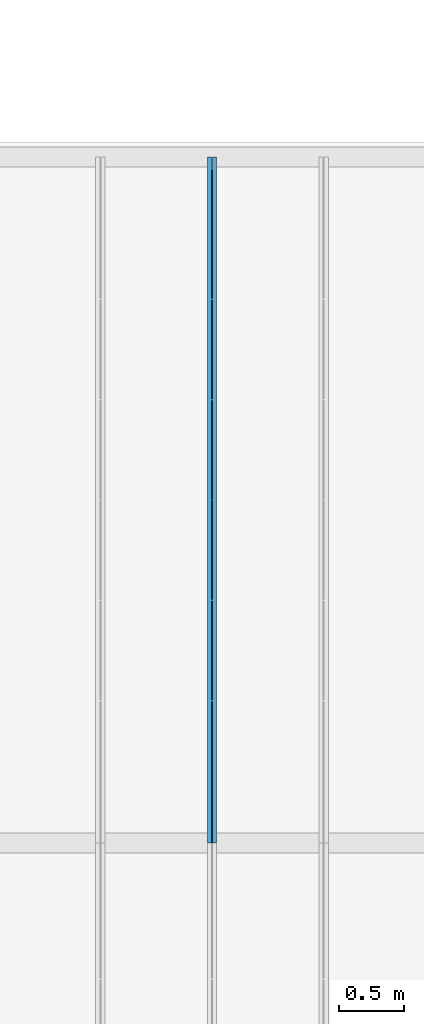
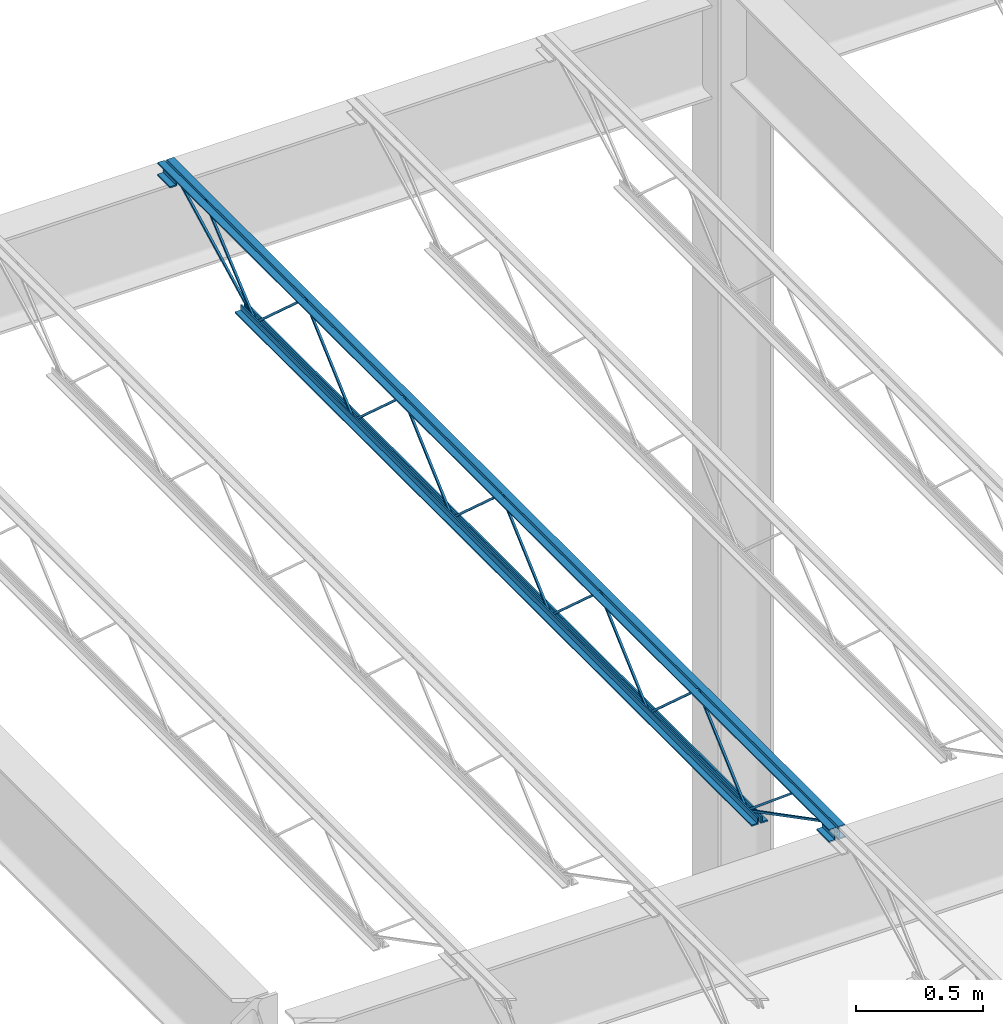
# One storey, part 103 of 119: 1 beam.
"""IFC2X3 building model written with IfcOpenShell, lengths in metres."""

from ifc_helpers import new_model, entity, si_unit, converted_unit, frame, origin, place, context, project, spatial, face_set, surface_model, element, save


model = new_model("IFC2X3")

# Units and contexts
model_context = context("Model", 3, precision=1e-09, world=origin())
plan_context = context("Plan", 3, precision=1e-09, world=origin())
ifc_project = project(units=[si_unit("LENGTHUNIT", "METRE"), si_unit("AREAUNIT", "SQUARE_METRE"), si_unit("VOLUMEUNIT", "CUBIC_METRE"), converted_unit("PLANEANGLEUNIT", "DEGREE", entity("IfcRatioMeasure", 0.01745329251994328), si_unit("PLANEANGLEUNIT", "RADIAN"), dimensions=[0, 0, 0, 0, 0, 0, 0]), si_unit("TIMEUNIT", "SECOND")], contexts=[model_context, plan_context])

# Site, building, storey
site_placement = place(None, origin())
site = spatial("IfcSite", under=ifc_project, at=site_placement, Name="Default", CompositionType="ELEMENT")
building_placement = place(site_placement, origin())
building = spatial("IfcBuilding", under=site, at=building_placement, CompositionType="ELEMENT")
storey_placement = place(building_placement, frame((0.0, 0.0, 4.570000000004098)))
storey = spatial("IfcBuildingStorey", under=building, at=storey_placement, Name="Second Floor", CompositionType="ELEMENT", Elevation=4.570000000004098)

# Beam
beam_placement = place(storey_placement, frame((-17.50673749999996, 44.78049999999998, 4.323999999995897)))
element("IfcBeam", 1, at=beam_placement, inside=storey, Name="M_K-Series Bar Joist-Rod Web:14K1:14K1", ObjectType="M_K-Series Bar Joist-Rod Web:14K1", context=model_context, shape_type="SurfaceModel", body=[
    surface_model("IfcFaceBasedSurfaceModel", [(0.04150000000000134, 3.042999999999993, 0.01110000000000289), (0.0320000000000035, 3.042999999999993, 0.01110000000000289), (0.0320000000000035, 3.042999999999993, 0.001600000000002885), (0.04150000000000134, 3.042999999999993, 0.001600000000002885), (0.03200000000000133, 3.044354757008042, 0.01110000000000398), (0.04150000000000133, 3.044354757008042, 0.01110000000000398), (0.03200000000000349, 3.047995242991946, 0.001600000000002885), (0.03200000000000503, 3.430145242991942, 0.3449000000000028), (0.03200000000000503, 3.432854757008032, 0.3449000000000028), (0.03200000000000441, 3.815004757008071, 0.001600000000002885), (0.0320000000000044, 3.819999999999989, 0.001600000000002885), (0.0320000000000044, 3.819999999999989, 0.01110000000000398), (0.0320000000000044, 3.818645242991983, 0.01110000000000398), (0.03200000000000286, 3.436495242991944, 0.3544000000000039), (0.03200000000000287, 3.426504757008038, 0.3544000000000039), (0.0415000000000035, 3.047995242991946, 0.001600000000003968), (0.04150000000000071, 3.43014524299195, 0.3449000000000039), (0.0415000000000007, 3.432854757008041, 0.3449000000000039), (0.04150000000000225, 3.815004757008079, 0.001600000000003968), (0.04150000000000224, 3.819999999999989, 0.001600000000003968), (0.04150000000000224, 3.819999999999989, 0.01110000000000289), (0.04150000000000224, 3.818645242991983, 0.01110000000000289), (0.04150000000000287, 3.436495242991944, 0.3544000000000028), (0.04150000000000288, 3.426504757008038, 0.3544000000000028), (0.0415000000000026, 2.265999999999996, 0.01110000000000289), (0.03200000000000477, 2.265999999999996, 0.01110000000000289), (0.03200000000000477, 2.265999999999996, 0.001600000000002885), (0.0415000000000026, 2.265999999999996, 0.001600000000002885), (0.0320000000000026, 2.267354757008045, 0.01110000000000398), (0.0415000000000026, 2.267354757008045, 0.01110000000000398), (0.03200000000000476, 2.270995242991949, 0.001600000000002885), (0.03200000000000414, 2.653145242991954, 0.3449000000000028), (0.03200000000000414, 2.655854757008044, 0.3449000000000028), (0.03200000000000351, 3.038004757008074, 0.001600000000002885), (0.03200000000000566, 3.042999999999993, 0.01110000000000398), (0.03200000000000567, 3.041645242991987, 0.01110000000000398), (0.03200000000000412, 2.659495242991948, 0.3544000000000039), (0.03200000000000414, 2.649504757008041, 0.3544000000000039), (0.04150000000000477, 2.270995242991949, 0.001600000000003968), (0.04150000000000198, 2.653145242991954, 0.3449000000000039), (0.04150000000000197, 2.655854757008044, 0.3449000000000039), (0.04150000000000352, 3.038004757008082, 0.001600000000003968), (0.04150000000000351, 3.042999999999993, 0.001600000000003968), (0.04150000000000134, 3.041645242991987, 0.01110000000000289), (0.04150000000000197, 2.659495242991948, 0.3544000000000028), (0.04150000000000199, 2.649504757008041, 0.3544000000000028), (0.04150000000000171, 1.488999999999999, 0.01110000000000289), (0.03200000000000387, 1.488999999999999, 0.01110000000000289), (0.03200000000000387, 1.488999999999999, 0.001600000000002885), (0.04150000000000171, 1.488999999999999, 0.001600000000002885), (0.0320000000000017, 1.490354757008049, 0.01110000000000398), (0.04150000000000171, 1.490354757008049, 0.01110000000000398), (0.03200000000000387, 1.493995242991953, 0.001600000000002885), (0.03200000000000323, 1.876145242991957, 0.3449000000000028), (0.03200000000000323, 1.878854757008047, 0.3449000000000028), (0.03200000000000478, 2.261004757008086, 0.001600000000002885), (0.03200000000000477, 2.266000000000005, 0.001600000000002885), (0.03200000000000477, 2.265999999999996, 0.01110000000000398), (0.03200000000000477, 2.26464524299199, 0.01110000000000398), (0.03200000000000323, 1.882495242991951, 0.3544000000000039), (0.03200000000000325, 1.872504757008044, 0.3544000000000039), (0.04150000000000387, 1.493995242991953, 0.001600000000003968), (0.04150000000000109, 1.876145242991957, 0.3449000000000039), (0.04150000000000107, 1.878854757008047, 0.3449000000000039), (0.04150000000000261, 2.261004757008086, 0.001600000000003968), (0.0415000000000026, 2.265999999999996, 0.001600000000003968), (0.0415000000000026, 2.266000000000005, 0.01110000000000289), (0.04150000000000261, 2.26464524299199, 0.01110000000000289), (0.04150000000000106, 1.88249524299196, 0.3544000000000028), (0.04150000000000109, 1.872504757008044, 0.3544000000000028), (0.04149999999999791, 3.819999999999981, 0.01109999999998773), (0.03200000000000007, 3.819999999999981, 0.01109999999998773), (0.03200000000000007, 3.819999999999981, 0.001599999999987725), (0.04149999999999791, 3.819999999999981, 0.001599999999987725), (0.03200000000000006, 3.82135475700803, 0.01109999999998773), (0.04150000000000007, 3.82135475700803, 0.01109999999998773), (0.03200000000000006, 3.824995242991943, 0.001599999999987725), (0.03199999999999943, 4.207145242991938, 0.3448999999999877), (0.03199999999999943, 4.209854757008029, 0.3448999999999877), (0.03199999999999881, 4.592004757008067, 0.001599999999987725), (0.0319999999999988, 4.596999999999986, 0.001599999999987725), (0.03200000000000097, 4.596999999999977, 0.01109999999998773), (0.03200000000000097, 4.595645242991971, 0.01109999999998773), (0.03199999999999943, 4.213495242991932, 0.3543999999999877), (0.03199999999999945, 4.203504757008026, 0.3543999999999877), (0.04150000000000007, 3.824995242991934, 0.001599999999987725), (0.04149999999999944, 4.207145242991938, 0.3448999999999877), (0.04149999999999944, 4.209854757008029, 0.3448999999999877), (0.04150000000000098, 4.592004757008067, 0.001599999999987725), (0.04150000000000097, 4.596999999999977, 0.001599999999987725), (0.04149999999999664, 4.596999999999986, 0.01109999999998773), (0.04149999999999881, 4.59564524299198, 0.01109999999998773), (0.04149999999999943, 4.213495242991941, 0.3543999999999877), (0.04149999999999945, 4.203504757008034, 0.3543999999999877), (0.04150000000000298, 0.7120000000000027, 0.01110000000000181), (0.03200000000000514, 0.7120000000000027, 0.01110000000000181), (0.03200000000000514, 0.7120000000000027, 0.001600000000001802), (0.04150000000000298, 0.7120000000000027, 0.001600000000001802), (0.03200000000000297, 0.7133547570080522, 0.01110000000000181), (0.04150000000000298, 0.7133547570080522, 0.01110000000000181), (0.03200000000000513, 0.7169952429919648, 0.001600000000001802), (0.0320000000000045, 1.09914524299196, 0.3449000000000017), (0.0320000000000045, 1.101854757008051, 0.3449000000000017), (0.03200000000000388, 1.484004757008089, 0.001600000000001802), (0.03200000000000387, 1.489000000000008, 0.001600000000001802), (0.03200000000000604, 1.488999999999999, 0.01110000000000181), (0.03200000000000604, 1.487645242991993, 0.01110000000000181), (0.0320000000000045, 1.105495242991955, 0.3544000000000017), (0.03200000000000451, 1.095504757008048, 0.3544000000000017), (0.04150000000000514, 0.7169952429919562, 0.001600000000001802), (0.04150000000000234, 1.09914524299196, 0.3449000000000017), (0.04150000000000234, 1.101854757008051, 0.3449000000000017), (0.04150000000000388, 1.484004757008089, 0.001600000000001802), (0.04150000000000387, 1.488999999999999, 0.001600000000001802), (0.04150000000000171, 1.489000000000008, 0.01110000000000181), (0.04150000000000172, 1.487645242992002, 0.01110000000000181), (0.04150000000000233, 1.105495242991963, 0.3544000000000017), (0.04150000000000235, 1.095504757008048, 0.3544000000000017), (0.03200000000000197, 5.309000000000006, 0.3559999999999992), (0.0, 5.309000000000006, 0.3559999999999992), (0.0, 5.309000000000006, 0.3494999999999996), (0.02550000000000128, 5.309000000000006, 0.3494999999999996), (0.02550000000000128, 5.309000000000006, 0.3239999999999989), (0.03200000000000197, 5.309000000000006, 0.3239999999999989), (0.04150000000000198, 5.309000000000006, 0.3559999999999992), (0.04150000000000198, 5.309000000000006, 0.3239999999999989), (0.04800000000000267, 5.309000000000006, 0.3239999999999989), (0.04800000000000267, 5.309000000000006, 0.3494999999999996), (0.0735000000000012, 5.309000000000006, 0.3494999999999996), (0.0735000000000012, 5.309000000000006, 0.3559999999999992), (0.03200000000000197, 0.0, 0.3559999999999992), (0.0, 0.0, 0.3559999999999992), (0.0, 0.0, 0.3494999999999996), (0.02550000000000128, 0.0, 0.3494999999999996), (0.02550000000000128, 0.0, 0.3239999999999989), (0.03200000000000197, 0.0, 0.3239999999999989), (0.04150000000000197, 0.0, 0.3559999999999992), (0.04150000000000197, 0.0, 0.3239999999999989), (0.04800000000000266, 0.0, 0.3239999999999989), (0.04800000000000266, 0.0, 0.3494999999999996), (0.07350000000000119, 0.0, 0.3494999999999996), (0.07350000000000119, 0.0, 0.3559999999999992), (0.04150000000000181, 0.09999999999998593, 0.2924999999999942), (0.07350000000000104, 0.09999999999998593, 0.2924999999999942), (0.07350000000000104, 0.09999999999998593, 0.2989999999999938), (0.0480000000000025, 0.09999999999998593, 0.2989999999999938), (0.0480000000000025, 0.09999999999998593, 0.3239999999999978), (0.04150000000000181, 0.09999999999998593, 0.3239999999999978), (0.0, 0.09999999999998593, 0.2924999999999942), (0.03200000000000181, 0.09999999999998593, 0.2924999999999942), (0.03200000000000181, 0.09999999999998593, 0.3239999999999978), (0.02550000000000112, 0.09999999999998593, 0.3239999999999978), (0.02550000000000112, 0.09999999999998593, 0.2989999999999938), (0.0, 0.09999999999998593, 0.2989999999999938), (0.04150000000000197, 0.0, 0.2924999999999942), (0.07350000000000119, 0.0, 0.2924999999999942), (0.07350000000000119, 0.0, 0.2989999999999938), (0.04800000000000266, 0.0, 0.2989999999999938), (0.04800000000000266, 0.0, 0.3239999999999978), (0.04150000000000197, 0.0, 0.3239999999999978), (0.0, 0.0, 0.2924999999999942), (0.03200000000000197, 0.0, 0.2924999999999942), (0.03200000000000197, 0.0, 0.3239999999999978), (0.02550000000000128, 0.0, 0.3239999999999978), (0.02550000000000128, 0.0, 0.2989999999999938), (0.0, 0.0, 0.2989999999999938), (0.03200000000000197, 5.309000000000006, 0.2924999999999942), (0.03200000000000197, 5.309000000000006, 0.3239999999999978), (0.02550000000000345, 5.309000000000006, 0.3239999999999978), (0.02550000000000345, 5.309000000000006, 0.2989999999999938), (0.0, 5.309000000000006, 0.2989999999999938), (0.0, 5.309000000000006, 0.2924999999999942), (0.04150000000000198, 5.309000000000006, 0.2924999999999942), (0.07350000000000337, 5.309000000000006, 0.2924999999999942), (0.07350000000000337, 5.309000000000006, 0.2989999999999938), (0.04800000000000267, 5.309000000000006, 0.2989999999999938), (0.04800000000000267, 5.309000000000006, 0.3239999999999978), (0.04150000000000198, 5.309000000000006, 0.3239999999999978), (0.03200000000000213, 5.209000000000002, 0.2924999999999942), (0.03200000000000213, 5.209000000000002, 0.3239999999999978), (0.02550000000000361, 5.209000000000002, 0.3239999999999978), (0.02550000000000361, 5.209000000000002, 0.2989999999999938), (0.0, 5.209000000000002, 0.2989999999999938), (0.0, 5.209000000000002, 0.2924999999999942), (0.04150000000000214, 5.209000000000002, 0.2924999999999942), (0.07350000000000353, 5.209000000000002, 0.2924999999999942), (0.07350000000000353, 5.209000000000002, 0.2989999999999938), (0.04800000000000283, 5.209000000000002, 0.2989999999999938), (0.04800000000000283, 5.209000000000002, 0.3239999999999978), (0.04150000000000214, 5.209000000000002, 0.3239999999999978), (0.03200000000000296, 4.697000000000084, 0.0), (0.03200000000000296, 4.697000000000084, 0.03199999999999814), (0.02550000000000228, 4.697000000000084, 0.03199999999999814), (0.02550000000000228, 4.697000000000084, 0.006499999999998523), (0.0, 4.697000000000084, 0.006499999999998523), (0.0, 4.697000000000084, 0.0), (0.04150000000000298, 4.697000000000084, 0.0), (0.0735000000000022, 4.697000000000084, 0.0), (0.0735000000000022, 4.697000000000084, 0.006499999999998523), (0.04800000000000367, 4.697000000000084, 0.006499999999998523), (0.04800000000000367, 4.697000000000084, 0.03199999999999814), (0.04150000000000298, 4.697000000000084, 0.03199999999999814), (0.03200000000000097, 0.6120000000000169, 0.0), (0.03200000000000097, 0.6120000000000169, 0.03199999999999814), (0.02550000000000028, 0.6120000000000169, 0.03199999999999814), (0.02550000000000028, 0.6120000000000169, 0.006499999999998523), (0.0, 0.6120000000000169, 0.006499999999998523), (0.0, 0.6120000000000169, 0.0), (0.04150000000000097, 0.6120000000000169, 0.0), (0.07350000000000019, 0.6120000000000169, 0.0), (0.07350000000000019, 0.6120000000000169, 0.006499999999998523), (0.04800000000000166, 0.6120000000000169, 0.006499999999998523), (0.04800000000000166, 0.6120000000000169, 0.03199999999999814), (0.04150000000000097, 0.6120000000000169, 0.03199999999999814), (0.04150000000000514, 0.7141882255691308, 0.01056594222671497), (0.03200000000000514, 0.7141882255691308, 0.01056594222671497), (0.03200000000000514, 0.709811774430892, 0.00213405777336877), (0.04150000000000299, 0.709811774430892, 0.00213405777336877), (0.04150000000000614, 0.1011592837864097, 0.3287499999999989), (0.04150000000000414, 0.0, 0.3287499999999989), (0.04150000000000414, 0.0, 0.3192499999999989), (0.04150000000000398, 0.09884071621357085, 0.3192499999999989), (0.03200000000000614, 0.09884071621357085, 0.3192499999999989), (0.03200000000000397, 0.1011592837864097, 0.3287499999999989), (0.03200000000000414, 0.0, 0.3287499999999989), (0.03200000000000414, 0.0, 0.3192499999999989), (0.04150000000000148, 0.3035428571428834, 0.3417000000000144), (0.03200000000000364, 0.3035428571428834, 0.3417000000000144), (0.03200000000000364, 0.3035428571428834, 0.3322000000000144), (0.04150000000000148, 0.3035428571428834, 0.3322000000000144), (0.03200000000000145, 0.3179658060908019, 0.3417000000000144), (0.04150000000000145, 0.3179658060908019, 0.3417000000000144), (0.03200000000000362, 0.3145199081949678, 0.3322000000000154), (0.03200000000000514, 0.7089547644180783, 0.002704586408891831), (0.03200000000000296, 0.7150452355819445, 0.009995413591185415), (0.04150000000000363, 0.3145199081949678, 0.3322000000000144), (0.04150000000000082, 0.7089547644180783, 0.002704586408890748), (0.04150000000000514, 0.7150452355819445, 0.009995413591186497), (0.0415000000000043, 5.211188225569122, 0.3197840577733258), (0.04150000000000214, 5.206811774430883, 0.328215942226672), (0.03200000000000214, 5.206811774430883, 0.328215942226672), (0.0320000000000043, 5.211188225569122, 0.3197840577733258), (0.04150000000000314, 4.599188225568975, 0.002134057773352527), (0.04150000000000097, 4.594811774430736, 0.01056594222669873), (0.03200000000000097, 4.594811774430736, 0.01056594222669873), (0.03200000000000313, 4.599188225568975, 0.002134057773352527), (0.04150000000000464, 5.00309445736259, 0.3460340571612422), (0.04150000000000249, 4.996934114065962, 0.35326594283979), (0.03200000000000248, 4.996934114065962, 0.3532659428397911), (0.03200000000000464, 5.00309445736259, 0.3460340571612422), (0.04150000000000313, 4.600080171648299, 0.002734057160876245), (0.04150000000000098, 4.593919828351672, 0.00996594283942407), (0.03200000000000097, 4.593919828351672, 0.00996594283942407), (0.03200000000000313, 4.600080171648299, 0.002734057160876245)], [face_set([[[0, 1, 2, 3]], [[1, 4, 5, 0]], [[2, 6, 7, 8, 9, 10, 11, 12, 13, 14, 4, 1]], [[3, 2, 6, 15]], [[0, 3, 15, 16, 17, 18, 19, 20, 21, 22, 23, 5]], [[4, 5, 23, 14]], [[15, 16, 7, 6]], [[14, 13, 22, 23]], [[16, 7, 8, 17]], [[13, 12, 21, 22]], [[17, 8, 9, 18]], [[20, 11, 10, 19]], [[12, 11, 20, 21]], [[18, 9, 10, 19]]]), face_set([[[24, 25, 26, 27]], [[25, 28, 29, 24]], [[26, 30, 31, 32, 33, 2, 34, 35, 36, 37, 28, 25]], [[27, 26, 30, 38]], [[24, 27, 38, 39, 40, 41, 42, 0, 43, 44, 45, 29]], [[28, 29, 45, 37]], [[38, 39, 31, 30]], [[37, 36, 44, 45]], [[39, 31, 32, 40]], [[36, 35, 43, 44]], [[40, 32, 33, 41]], [[0, 34, 2, 42]], [[35, 34, 0, 43]], [[41, 33, 2, 42]]]), face_set([[[46, 47, 48, 49]], [[47, 50, 51, 46]], [[48, 52, 53, 54, 55, 56, 57, 58, 59, 60, 50, 47]], [[49, 48, 52, 61]], [[46, 49, 61, 62, 63, 64, 65, 66, 67, 68, 69, 51]], [[50, 51, 69, 60]], [[61, 62, 53, 52]], [[60, 59, 68, 69]], [[62, 53, 54, 63]], [[59, 58, 67, 68]], [[63, 54, 55, 64]], [[66, 57, 56, 65]], [[58, 57, 66, 67]], [[64, 55, 56, 65]]]), face_set([[[70, 71, 72, 73]], [[71, 74, 75, 70]], [[72, 76, 77, 78, 79, 80, 81, 82, 83, 84, 74, 71]], [[73, 72, 76, 85]], [[70, 73, 85, 86, 87, 88, 89, 90, 91, 92, 93, 75]], [[74, 75, 93, 84]], [[85, 86, 77, 76]], [[84, 83, 92, 93]], [[86, 77, 78, 87]], [[83, 82, 91, 92]], [[87, 78, 79, 88]], [[90, 81, 80, 89]], [[82, 81, 90, 91]], [[88, 79, 80, 89]]]), face_set([[[94, 95, 96, 97]], [[95, 98, 99, 94]], [[96, 100, 101, 102, 103, 104, 105, 106, 107, 108, 98, 95]], [[97, 96, 100, 109]], [[94, 97, 109, 110, 111, 112, 113, 114, 115, 116, 117, 99]], [[98, 99, 117, 108]], [[109, 110, 101, 100]], [[108, 107, 116, 117]], [[110, 101, 102, 111]], [[107, 106, 115, 116]], [[111, 102, 103, 112]], [[114, 105, 104, 113]], [[106, 105, 114, 115]], [[112, 103, 104, 113]]]), face_set([[[118, 119, 120, 121, 122, 123]], [[124, 125, 126, 127, 128, 129]], [[130, 131, 132, 133, 134, 135]], [[136, 137, 138, 139, 140, 141]], [[123, 118, 130, 135]], [[122, 123, 135, 134]], [[121, 133, 134, 122]], [[120, 121, 133, 132]], [[119, 131, 132, 120]], [[118, 130, 131, 119]], [[129, 141, 136, 124]], [[128, 129, 141, 140]], [[127, 128, 140, 139]], [[126, 127, 139, 138]], [[125, 126, 138, 137]], [[124, 136, 137, 125]]]), face_set([[[142, 143, 144, 145, 146, 147]], [[148, 149, 150, 151, 152, 153]], [[154, 155, 156, 157, 158, 159]], [[160, 161, 162, 163, 164, 165]], [[147, 159, 154, 142]], [[146, 158, 159, 147]], [[145, 146, 158, 157]], [[144, 156, 157, 145]], [[143, 144, 156, 155]], [[142, 143, 155, 154]], [[153, 165, 160, 148]], [[152, 164, 165, 153]], [[151, 163, 164, 152]], [[150, 162, 163, 151]], [[149, 150, 162, 161]], [[148, 149, 161, 160]]]), face_set([[[166, 167, 168, 169, 170, 171]], [[172, 173, 174, 175, 176, 177]], [[178, 179, 180, 181, 182, 183]], [[184, 185, 186, 187, 188, 189]], [[171, 166, 178, 183]], [[170, 182, 183, 171]], [[169, 181, 182, 170]], [[168, 180, 181, 169]], [[167, 179, 180, 168]], [[166, 167, 179, 178]], [[177, 189, 184, 172]], [[176, 188, 189, 177]], [[175, 176, 188, 187]], [[174, 186, 187, 175]], [[173, 174, 186, 185]], [[172, 173, 185, 184]]]), face_set([[[190, 191, 192, 193, 194, 195]], [[196, 197, 198, 199, 200, 201]], [[202, 203, 204, 205, 206, 207]], [[208, 209, 210, 211, 212, 213]], [[195, 190, 202, 207]], [[194, 206, 207, 195]], [[193, 205, 206, 194]], [[192, 204, 205, 193]], [[191, 203, 204, 192]], [[190, 191, 203, 202]], [[201, 213, 208, 196]], [[200, 212, 213, 201]], [[199, 200, 212, 211]], [[198, 210, 211, 199]], [[197, 198, 210, 209]], [[196, 197, 209, 208]]]), face_set([[[214, 215, 216, 217]], [[217, 214, 218, 219, 220, 221]], [[216, 217, 221, 222]], [[215, 223, 224, 225, 222, 216]], [[214, 218, 223, 215]], [[219, 224, 225, 220]], [[222, 221, 220, 225]], [[218, 219, 224, 223]]]), face_set([[[226, 227, 228, 229]], [[227, 230, 231, 226]], [[228, 232, 233, 234, 230, 227]], [[229, 228, 232, 235]], [[226, 229, 235, 236, 237, 231]], [[237, 234, 233, 236]], [[230, 234, 237, 231]], [[235, 232, 233, 236]]]), face_set([[[238, 239, 240, 241]], [[242, 243, 244, 245]], [[241, 245, 242, 238]], [[240, 244, 245, 241]], [[239, 240, 244, 243]], [[238, 239, 243, 242]]]), face_set([[[246, 247, 248, 249]], [[250, 251, 252, 253]], [[249, 253, 250, 246]], [[248, 252, 253, 249]], [[247, 248, 252, 251]], [[246, 247, 251, 250]]])]),
])

save(model, "model.ifc")
